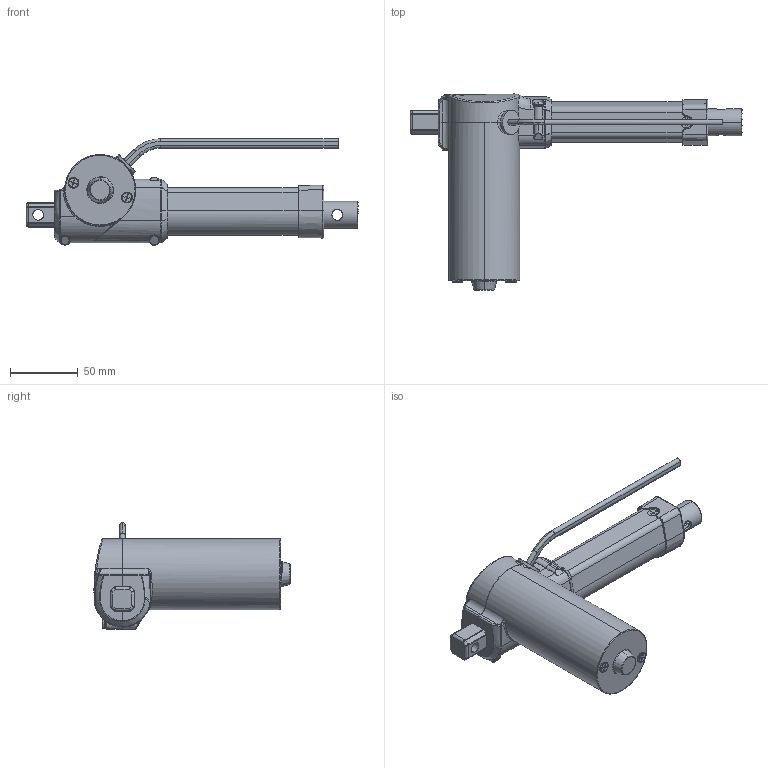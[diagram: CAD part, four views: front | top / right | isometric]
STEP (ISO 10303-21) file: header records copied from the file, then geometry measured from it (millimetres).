
FILE_DESCRIPTION (( 'STEP AP203' ), '1' );
FILE_NAME ('FD20-C2(D1)1.STEP', '2022-07-05T08:35:34', ( '' ), ( '' ), 'SwSTEP 2.0', 'SolidWorks 2020', '' );
FILE_SCHEMA (( 'CONFIG_CONTROL_DESIGN' ));
Length unit declared in the file: millimetre
Products named in the file (3): FD20-C_1; FD20-C2(D1)1; FD20-C2(D1)
Assembly tree (2 placements, depth 2):
  FD20-C2(D1)1
    FD20-C_1
    FD20-C2(D1)
Bounding box: 245.55 x 145 x 78.73 mm (x, y, z)
Volume: 14406 mm3; surface area: 74507.6 mm2
Topology: 1 solids, 11 shells, 470 faces, 1644 edges, 1158 vertices
Faces by surface type: bspline 203, plane 131, cylinder 123, cone 13
Entity records: 35500 total; most frequent: CARTESIAN_POINT 23730, ORIENTED_EDGE 2748, EDGE_CURVE 1641, DIRECTION 1517, VERTEX_POINT 1158, B_SPLINE_CURVE_WITH_KNOTS 770, VECTOR 581, LINE 581
